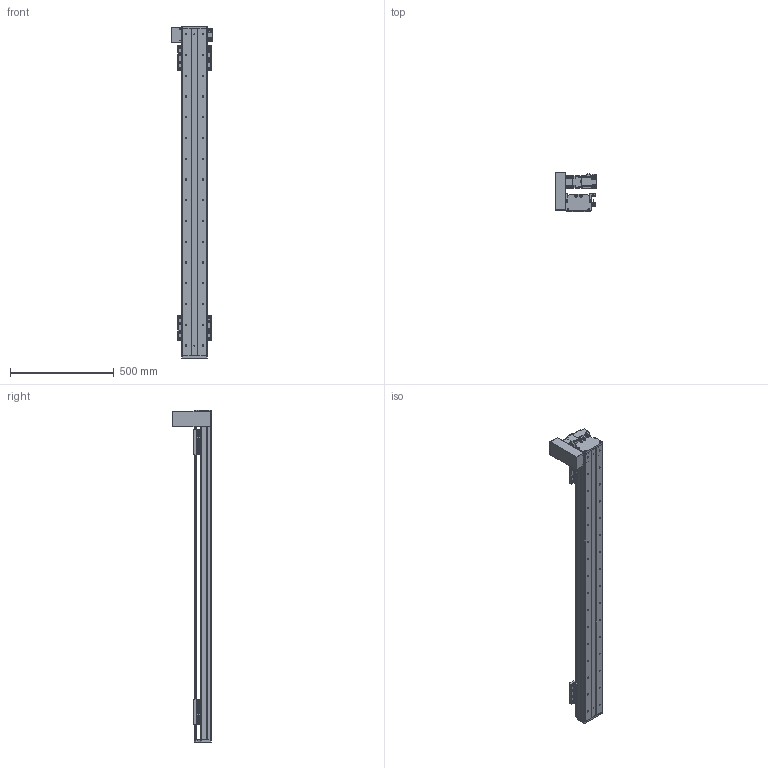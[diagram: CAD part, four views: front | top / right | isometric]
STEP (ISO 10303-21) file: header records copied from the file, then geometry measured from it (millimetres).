
FILE_DESCRIPTION(/* description */ (''),/* implementation_level */ '2;1');
FILE_NAME(/* name */ 'C:\Users\PC\Desktop\3D도면\STEP\DSB125-UL2G-W1300-R.stp',/* time_stamp */ '2018-06-19T00:44:23-07:00',/* author */ ('PC'),/* organization */ (''),/* preprocessor_version */ 'ST-DEVELOPER v16.5',/* originating_system */ 'Autodesk Inventor 2017',/* authorisation */ '');
FILE_SCHEMA (('AUTOMOTIVE_DESIGN { 1 0 10303 214 3 1 1 }'));
Length unit declared in the file: millimetre
Products named in the file (12): DSB125-L-300ST; DSR125-BASE(S-TYPE); DSR125-UP COVER-R01(170203); DSR125-REAR COVER-R01(170203); DSR125-REAR COVER-R01(170203)_1; hg-kr23_; ab0601-p0401200402; 13-BELT COVER; DSR126-SENSOR DOG; SENSOR BRACKET(EE-SX674A); pm-y65_step; DSR125-TABLE(MSA15X)
Assembly tree (16 placements, depth 2):
  DSB125-L-300ST
    DSR125-BASE(S-TYPE)
    DSR125-UP COVER-R01(170203)
    DSR125-REAR COVER-R01(170203)
    DSR125-REAR COVER-R01(170203)_1
    hg-kr23_
    ab0601-p0401200402
    13-BELT COVER
    DSR126-SENSOR DOG
    SENSOR BRACKET(EE-SX674A)  x3
    pm-y65_step  x3
    DSR125-TABLE(MSA15X)  x2
Bounding box: 202.1 x 187 x 1600 mm (x, y, z)
Volume: 5661080.5 mm3; surface area: 1629791.3 mm2
Topology: 17 solids, 22 shells, 1685 faces, 4561 edges, 3006 vertices
Faces by surface type: plane 908, cylinder 643, cone 122, sphere 8, torus 4
Full cylindrical faces by diameter (mm): 2.459 x20, 3.242 x16, 3.5 x6, 4 x1, 4.134 x16, 4.2 x4, 4.3 x1, 4.5 x50, 4.917 x20, 5 x27, 5.3 x1, 5.5 x4, 5.6 x8, 5.8 x4, 5.9 x8, 6 x4, 6.6 x22, 6.647 x32, 7.5 x32, 8.5 x8, 8.7 x1, 11 x22, 14 x1, 16 x2, 17 x1, 20 x1, 47 x1, 50 x3
Entity records: 35830 total; most frequent: CARTESIAN_POINT 6571, DIRECTION 6220, ORIENTED_EDGE 5526, EDGE_CURVE 2768, AXIS2_PLACEMENT_3D 2298, VERTEX_POINT 1977, EDGE_LOOP 1721, LINE 1624
